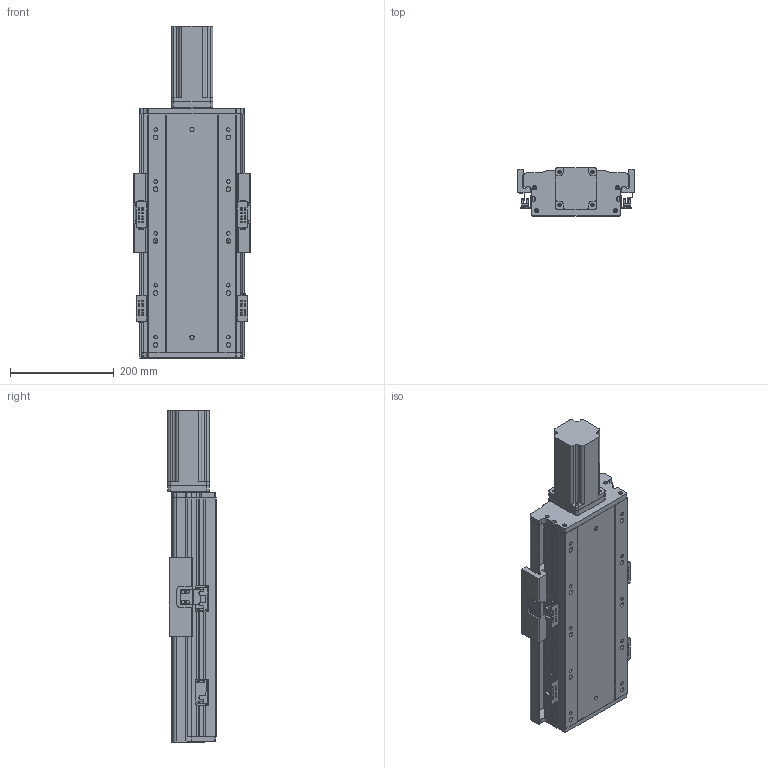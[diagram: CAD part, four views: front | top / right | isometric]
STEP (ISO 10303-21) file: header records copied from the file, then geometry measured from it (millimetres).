
FILE_DESCRIPTION (( 'STEP AP203' ), '1' );
FILE_NAME ('RY170FB-L2510-300-MK.SLDASM_150.step', '2021-02-22T08:56:21', ( '盈信电脑' ), ( '东莞市道滘镇水果街19号' ), 'SwSTEP 2.0', 'SolidWorks 2012', '' );
FILE_SCHEMA (( 'CONFIG_CONTROL_DESIGN' ));
Length unit declared in the file: millimetre
Products named in the file (16): RY170FB-300奻裔_150; 滅袉蝶18-28; RY170FB-铝滑块(25丝杆）; 滅袉蝶18-10; RY170FB-綴裔啣; RY170FB-300倰第菁釱-MK_150; RY170FB-ヶ裔啣; 侂狟750W萇儂ㄗ80遺ㄘ; RY140直线电机感应器674光电安装座; 覜茼ん674; 750W萇儂梓袧蛌諉啣; RY140-674嫖萇耀輸; RY170FB-L2510-300-MK.SLDASM_150; RY140FB-覜茼え; RY140FB-674嫖萇覜茼え
Assembly tree (20 placements, depth 3):
  RY170FB-L2510-300-MK.SLDASM_150
    RY170FB-300倰第菁釱-MK_150
    RY170FB-綴裔啣
    RY170FB-ヶ裔啣
    滅袉蝶18-28
    滅袉蝶18-10
    RY170FB-铝滑块(25丝杆）
    RY170FB-300奻裔_150
    750W萇儂梓袧蛌諉啣
    侂狟750W萇儂ㄗ80遺ㄘ
    RY140-674嫖萇耀輸  x2
      覜茼ん674
      RY140直线电机感应器674光电安装座
    RY140FB-674嫖萇覜茼え
    RY140-674嫖萇耀輸  x2
      覜茼ん674
      RY140直线电机感应器674光电安装座
    RY140FB-覜茼え
Bounding box: 225 x 93.2 x 639.5 mm (x, y, z)
Volume: 3972945.7 mm3; surface area: 1017320.5 mm2
Topology: 21 solids, 21 shells, 1513 faces, 4237 edges, 2744 vertices
Faces by surface type: plane 761, cylinder 676, cone 76
Entity records: 36833 total; most frequent: CARTESIAN_POINT 7388, DIRECTION 5845, ORIENTED_EDGE 5774, EDGE_CURVE 2887, AXIS2_PLACEMENT_3D 2105, VERTEX_POINT 1898, LINE 1635, VECTOR 1635
